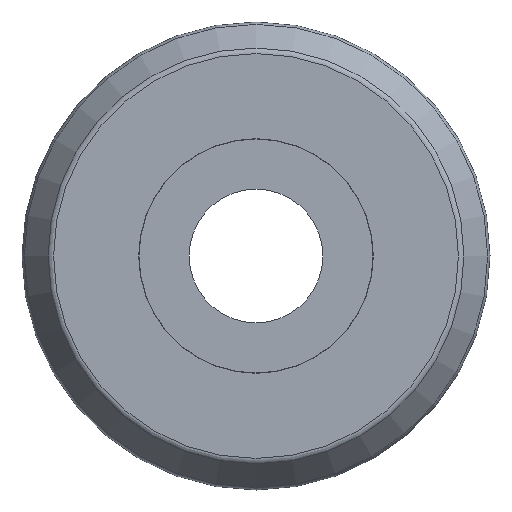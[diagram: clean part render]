
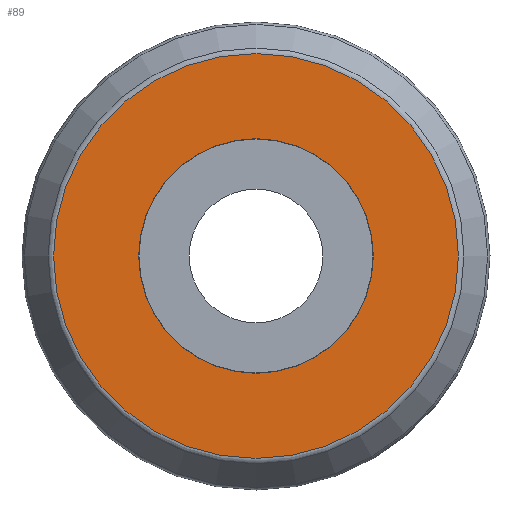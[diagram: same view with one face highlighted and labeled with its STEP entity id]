
A CAD part, left-side view. The second image highlights one B-rep face of the part: STEP entity #89.
In plain terms, the highlighted planar face has unit normal (-1, 0, 0).
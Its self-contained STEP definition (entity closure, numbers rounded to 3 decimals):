
#89 = ADVANCED_FACE( '', ( #136, #137 ), #138, .T. );
#136 = FACE_BOUND( '', #190, .T. );
#137 = FACE_OUTER_BOUND( '', #191, .T. );
#138 = PLANE( '', #192 );
#190 = EDGE_LOOP( '', ( #272 ) );
#191 = EDGE_LOOP( '', ( #273 ) );
#192 = AXIS2_PLACEMENT_3D( '', #274, #275, #276 );
#272 = ORIENTED_EDGE( '', *, *, #307, .T. );
#273 = ORIENTED_EDGE( '', *, *, #306, .F. );
#274 = CARTESIAN_POINT( '', ( -5.5, 15.139, 0. ) );
#275 = DIRECTION( '', ( -1., 0., 0. ) );
#276 = DIRECTION( '', ( 0., 0., 1. ) );
#306 = EDGE_CURVE( '', #338, #338, #339, .T. );
#307 = EDGE_CURVE( '', #340, #340, #341, .T. );
#338 = VERTEX_POINT( '', #374 );
#339 = CIRCLE( '', #375, 15.139 );
#340 = VERTEX_POINT( '', #376 );
#341 = CIRCLE( '', #377, 8.77 );
#374 = CARTESIAN_POINT( '', ( -5.5, 0., -15.139 ) );
#375 = AXIS2_PLACEMENT_3D( '', #424, #425, #426 );
#376 = CARTESIAN_POINT( '', ( -5.5, 0., -8.77 ) );
#377 = AXIS2_PLACEMENT_3D( '', #427, #428, #429 );
#424 = CARTESIAN_POINT( '', ( -5.5, 0., 0. ) );
#425 = DIRECTION( '', ( 1., 0., 0. ) );
#426 = DIRECTION( '', ( 0., 0., -1. ) );
#427 = CARTESIAN_POINT( '', ( -5.5, 0., 0. ) );
#428 = DIRECTION( '', ( 1., 0., 0. ) );
#429 = DIRECTION( '', ( 0., 0., -1. ) );
